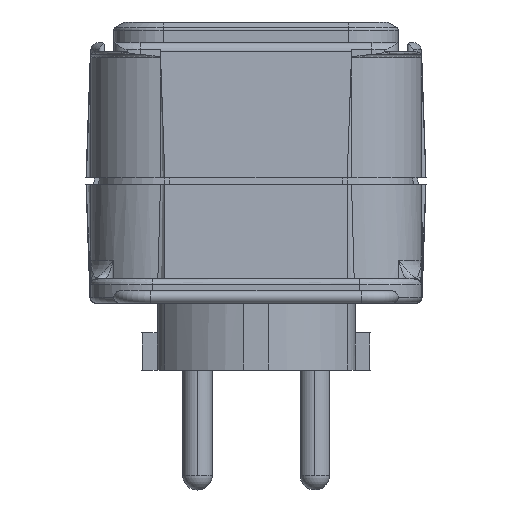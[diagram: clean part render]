
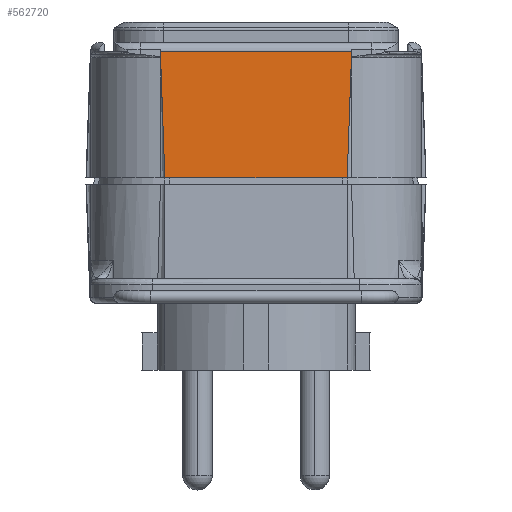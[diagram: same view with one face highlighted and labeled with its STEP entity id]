
A CAD part, left-side view. The second image highlights one B-rep face of the part: STEP entity #562720.
In plain terms, the highlighted planar face has unit normal (-0.999, 0, 0.035) as drawn and (-0.999, 0, -0.035) by its records, which use the part's own axes.
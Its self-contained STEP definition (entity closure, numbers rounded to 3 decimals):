
#334090=CARTESIAN_POINT('',(-1.358,15.349,-26.4));
#334100=VERTEX_POINT('',#334090);
#334610=CARTESIAN_POINT('',(-0.644,14.635,
-46.852));
#334620=VERTEX_POINT('',#334610);
#334650=CARTESIAN_POINT('',(-0.478,14.469,-51.6));
#334660=DIRECTION('',(-0.035,0.035,
0.999));
#334670=VECTOR('',#334660,1.);
#334680=LINE('',#334650,#334670);
#334690=EDGE_CURVE('',#334620,#334100,#334680,.T.);
#378030=CARTESIAN_POINT('',(-0.644,45.563,
-46.852));
#378040=VERTEX_POINT('',#378030);
#378070=CARTESIAN_POINT('',(-0.644,60.198,
-46.852));
#378080=DIRECTION('',(0.,-1.,0.));
#378090=VECTOR('',#378080,1.);
#378100=LINE('',#378070,#378090);
#378110=EDGE_CURVE('',#378040,#334620,#378100,.T.);
#549450=CARTESIAN_POINT('',(-1.358,60.198,-26.4));
#549460=DIRECTION('',(0.,-1.,0.));
#549470=VECTOR('',#549460,1.);
#549480=LINE('',#549450,#549470);
#549490=CARTESIAN_POINT('',(-1.358,44.849,-26.4));
#549500=VERTEX_POINT('',#549490);
#549510=EDGE_CURVE('',#549500,#334100,#549480,.T.);
#562560=CARTESIAN_POINT('',(-1.358,56.849,-26.4));
#562570=DIRECTION('',(-0.999,0.,
-0.035));
#562580=DIRECTION('',(0.,1.,0.));
#562590=AXIS2_PLACEMENT_3D('',#562560,#562570,#562580);
#562600=PLANE('',#562590);
#562610=CARTESIAN_POINT('',(-0.478,45.729,-51.6));
#562620=DIRECTION('',(0.035,0.035,
-0.999));
#562630=VECTOR('',#562620,1.);
#562640=LINE('',#562610,#562630);
#562650=EDGE_CURVE('',#549500,#378040,#562640,.T.);
#562660=ORIENTED_EDGE('',*,*,#562650,.T.);
#562670=ORIENTED_EDGE('',*,*,#549510,.F.);
#562680=ORIENTED_EDGE('',*,*,#334690,.T.);
#562690=ORIENTED_EDGE('',*,*,#378110,.T.);
#562700=EDGE_LOOP('',(#562690,#562680,#562670,#562660));
#562710=FACE_OUTER_BOUND('',#562700,.T.);
#562720=ADVANCED_FACE('',(#562710),#562600,.T.);
